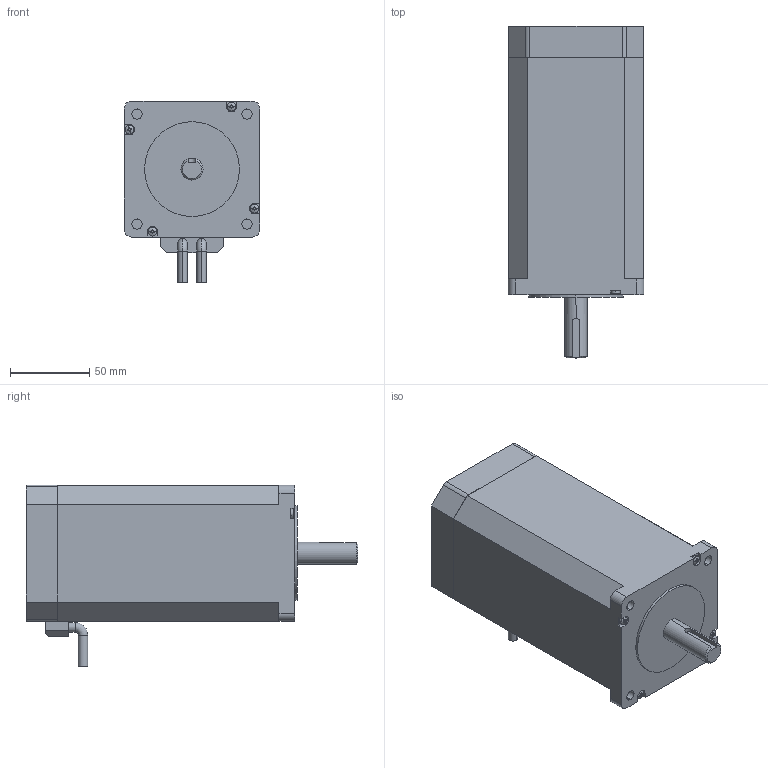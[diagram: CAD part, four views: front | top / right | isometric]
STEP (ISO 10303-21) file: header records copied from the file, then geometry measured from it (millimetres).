
FILE_DESCRIPTION (( 'STEP AP203' ), '1' );
FILE_NAME ('86BG120-EC 贝格达、前盖Φ60、DB15、前径14长40键5-25厚11、电缆线0.5m.STEP', '2024-10-13T14:30:37', ( '' ), ( '' ), 'SwSTEP 2.0', 'SolidWorks 2022', '' );
FILE_SCHEMA (( 'CONFIG_CONTROL_DESIGN' ));
Length unit declared in the file: millimetre
Products named in the file (1): 86BG120-EC   贝格达、前盖Φ60、DB15、前径14长40键5-25厚11、电缆线0.5m
Bounding box: 86 x 210 x 115 mm (x, y, z)
Volume: 1227208 mm3; surface area: 89220.6 mm2
Topology: 6 solids, 6 shells, 195 faces, 503 edges, 332 vertices
Faces by surface type: plane 116, cylinder 66, sphere 8, torus 4, cone 1
Entity records: 6134 total; most frequent: CARTESIAN_POINT 1245, DIRECTION 1035, ORIENTED_EDGE 1006, EDGE_CURVE 503, AXIS2_PLACEMENT_3D 388, VERTEX_POINT 332, VECTOR 259, LINE 259
